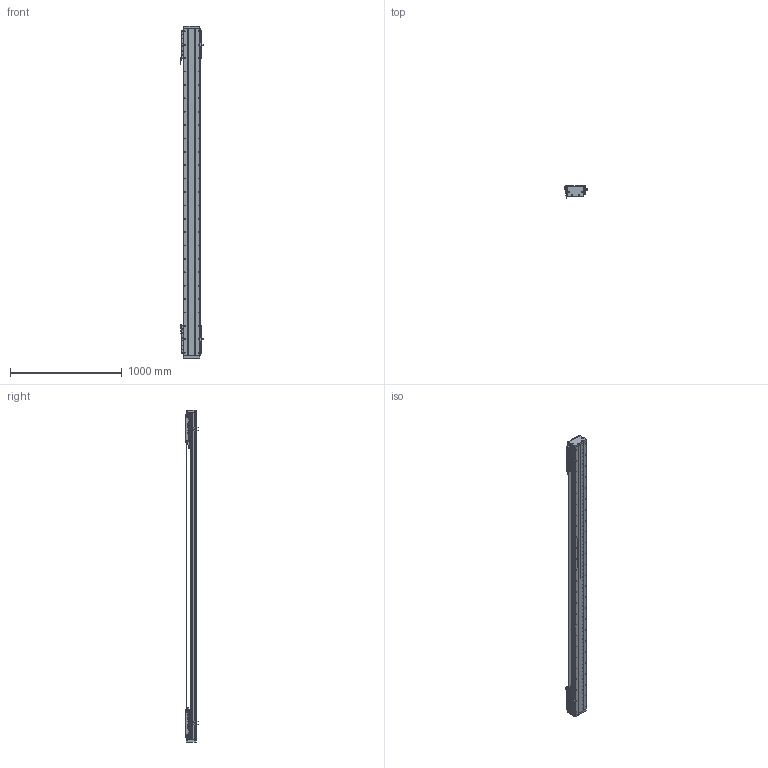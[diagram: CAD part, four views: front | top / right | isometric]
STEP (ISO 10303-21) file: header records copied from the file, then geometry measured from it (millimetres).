
FILE_DESCRIPTION (( 'STEP AP203' ), '1' );
FILE_NAME ('DA-C145-2-C3-T2360-C010-0.2 眻盄萇儂.STEP', '2025-08-13T10:27:23', ( '' ), ( '' ), 'SwSTEP 2.0', 'SolidWorks 2019', '' );
FILE_SCHEMA (( 'CONFIG_CONTROL_DESIGN' ));
Length unit declared in the file: millimetre
Products named in the file (38): 葩璃 PM-T45^DA-C145-2-C3-T-C010-0.2; 葩璃 XD-U-02L 棠掑喜^DA-C145-2-C3-T-C010-0.2; CU145-W 幗紩賑怢-1; DKW-KGZ-ZJ-00 中间光电开关支架; 复件 内六角平端紧定螺钉 GB.T77-2000 M5×10^CU145-W 滚珠滑台; 葩璃 DA145-C3-DP-B-00 菜えB^CU145-W 幗紩賑怢; CU145-W-00 珨极趙賑雄怢啣; CU145-W-00 珨极趙賑雄怢啣-1; 66245-CU145-HT-W-00 賑雄怢啣(3D芞祧)(00); 葩璃 DA95-HXJ-00 遣喳砎蝶^DA-C145-2-C3-T-C010-0.2; 复件 纯铜油杯 6x6mm^CU145-W 滚珠滑台; IU-CU145-L-00 菁釱(L2940); 复件 DA95-HK-GT-00 滑块钢轨^CU145-W-00 一体化滑动台板; TAY01-M8; 复件 DA145-C3-YB-B-00 压板B^CU145-W 滚珠滑台; 葩璃 DMA-010-0.2 黍杅芛^DA-C145-2-C3-T-C010-0.2; 复件 DA145 钢带^复件 CU145 钢带组件_DA-C145-2-C3-T-C010-0.2; DA-C145-2-C3-T2360-C010-0.2 眻盄萇儂; 复件 DA145-C3-DK-00 挡块^CU145-W 滚珠滑台; IU-CU145-L 菁釱絳寢; 葩璃 鞠褒情蹟譫 M3^DA-C145-2-C3-T-C010-0.2; 复件 DA146 钢带拉块^复件 CU145 钢带组件_DA-C145-2-C3-T-C010-0.2; 复件 DA145-C3-YB-A-00 压板A^CU145-W 滚珠滑台; DKW168-HXJ-ZJ-00 笢潔滅袉砎蝶; 复件 DA145-GYP-00 光电感应片^DA-C145-2-C3-T-C010-0.2; 葩璃 CU145 詩湍郪璃^DA-C145-2-C3-T-C010-0.2; 葩璃 CKM03-W060-C1C2-TP-0.2^DA-C145-2-C3-T-C010-0.2; 葩璃 PM-Y65^DA-C145-2-C3-T-C010-0.2; CU145-W 幗紩賑怢; 复件 DA145-DG 钢带端盖^复件 CU145 钢带组件_DA-C145-2-C3-T-C010-0.2; 复件 DA95-DB-00  挡板^CU145-W 滚珠滑台; 葩璃 CKMA01-W060-TRL^DA-C145-2-C3-T-C010-0.2; DKW-GYP-ZJ-00 笢潔嫖萇覜茼え; 复件 DA146 钢带垫块^复件 CU145 钢带组件_DA-C145-2-C3-T-C010-0.2; 复件 半圆头内六角螺钉 M3×6^CU145-W 滚珠滑台; 葩璃 DA95-GT-T-00^IU-CU145-L 菁釱絳寢; 葩璃 DA145-C3-DP-A-00 菜えA^CU145-W 幗紩賑怢; 复件 DA95-MFP-01 密封片^CU145-W 滚珠滑台
Assembly tree (180 placements, depth 4):
  DA-C145-2-C3-T2360-C010-0.2 眻盄萇儂
    IU-CU145-L 菁釱絳寢
      IU-CU145-L-00 菁釱(L2940)
      葩璃 DA95-GT-T-00^IU-CU145-L 菁釱絳寢  x4
    葩璃 CU145 詩湍郪璃^DA-C145-2-C3-T-C010-0.2
      复件 DA145-DG 钢带端盖^复件 CU145 钢带组件_DA-C145-2-C3-T-C010-0.2  x2
      复件 DA146 钢带拉块^复件 CU145 钢带组件_DA-C145-2-C3-T-C010-0.2  x2
      复件 DA146 钢带垫块^复件 CU145 钢带组件_DA-C145-2-C3-T-C010-0.2  x2
      复件 DA145 钢带^复件 CU145 钢带组件_DA-C145-2-C3-T-C010-0.2
    CU145-W 幗紩賑怢
      CU145-W-00 珨极趙賑雄怢啣
        66245-CU145-HT-W-00 賑雄怢啣(3D芞祧)(00)
        复件 DA95-HK-GT-00 滑块钢轨^CU145-W-00 一体化滑动台板  x8
      复件 DA95-MFP-01 密封片^CU145-W 滚珠滑台  x8
      复件 DA95-DB-00  挡板^CU145-W 滚珠滑台  x8
      复件 内六角平端紧定螺钉 GB.T77-2000 M5×10^CU145-W 滚珠滑台  x4
      复件 纯铜油杯 6x6mm^CU145-W 滚珠滑台  x4
      复件 半圆头内六角螺钉 M3×6^CU145-W 滚珠滑台  x16
      复件 DA145-C3-DK-00 挡块^CU145-W 滚珠滑台  x4
      葩璃 DA145-C3-DP-B-00 菜えB^CU145-W 幗紩賑怢  x2
      复件 DA145-C3-YB-B-00 压板B^CU145-W 滚珠滑台  x2
      葩璃 DA145-C3-DP-A-00 菜えA^CU145-W 幗紩賑怢  x3
      复件 DA145-C3-YB-A-00 压板A^CU145-W 滚珠滑台  x3
      TAY01-M8  x4
    CU145-W 幗紩賑怢-1
      CU145-W-00 珨极趙賑雄怢啣-1
        66245-CU145-HT-W-00 賑雄怢啣(3D芞祧)(00)
        复件 DA95-HK-GT-00 滑块钢轨^CU145-W-00 一体化滑动台板  x8
      复件 DA95-MFP-01 密封片^CU145-W 滚珠滑台  x8
      复件 DA95-DB-00  挡板^CU145-W 滚珠滑台  x8
      复件 内六角平端紧定螺钉 GB.T77-2000 M5×10^CU145-W 滚珠滑台  x4
      复件 纯铜油杯 6x6mm^CU145-W 滚珠滑台  x4
      复件 半圆头内六角螺钉 M3×6^CU145-W 滚珠滑台  x16
      复件 DA145-C3-DK-00 挡块^CU145-W 滚珠滑台  x4
      葩璃 DA145-C3-DP-B-00 菜えB^CU145-W 幗紩賑怢  x2
      复件 DA145-C3-YB-B-00 压板B^CU145-W 滚珠滑台  x2
      葩璃 DA145-C3-DP-A-00 菜えA^CU145-W 幗紩賑怢  x3
      复件 DA145-C3-YB-A-00 压板A^CU145-W 滚珠滑台  x3
      TAY01-M8  x4
    葩璃 CKMA01-W060-TRL^DA-C145-2-C3-T-C010-0.2
    葩璃 PM-T45^DA-C145-2-C3-T-C010-0.2  x4
    葩璃 XD-U-02L 棠掑喜^DA-C145-2-C3-T-C010-0.2
    葩璃 DA95-HXJ-00 遣喳砎蝶^DA-C145-2-C3-T-C010-0.2  x4
    葩璃 CKM03-W060-C1C2-TP-0.2^DA-C145-2-C3-T-C010-0.2  x2
    葩璃 DMA-010-0.2 黍杅芛^DA-C145-2-C3-T-C010-0.2  x2
    复件 DA145-GYP-00 光电感应片^DA-C145-2-C3-T-C010-0.2  x2
    DKW-GYP-ZJ-00 笢潔嫖萇覜茼え
    DKW-KGZ-ZJ-00 中间光电开关支架
    葩璃 PM-Y65^DA-C145-2-C3-T-C010-0.2
    葩璃 鞠褒情蹟譫 M3^DA-C145-2-C3-T-C010-0.2  x8
    DKW168-HXJ-ZJ-00 笢潔滅袉砎蝶
Bounding box: 213.7 x 108.45 x 2976 mm (x, y, z)
Volume: 15631861.8 mm3; surface area: 5009165.1 mm2
Topology: 175 solids, 239 shells, 7714 faces, 21099 edges, 13085 vertices
Faces by surface type: cylinder 3417, plane 2957, cone 1184, torus 140, sphere 8, bspline 8
Entity records: 149370 total; most frequent: CARTESIAN_POINT 44096, ORIENTED_EDGE 20884, DIRECTION 19715, EDGE_CURVE 10442, AXIS2_PLACEMENT_3D 7267, VERTEX_POINT 6784, LINE 5181, VECTOR 5181
